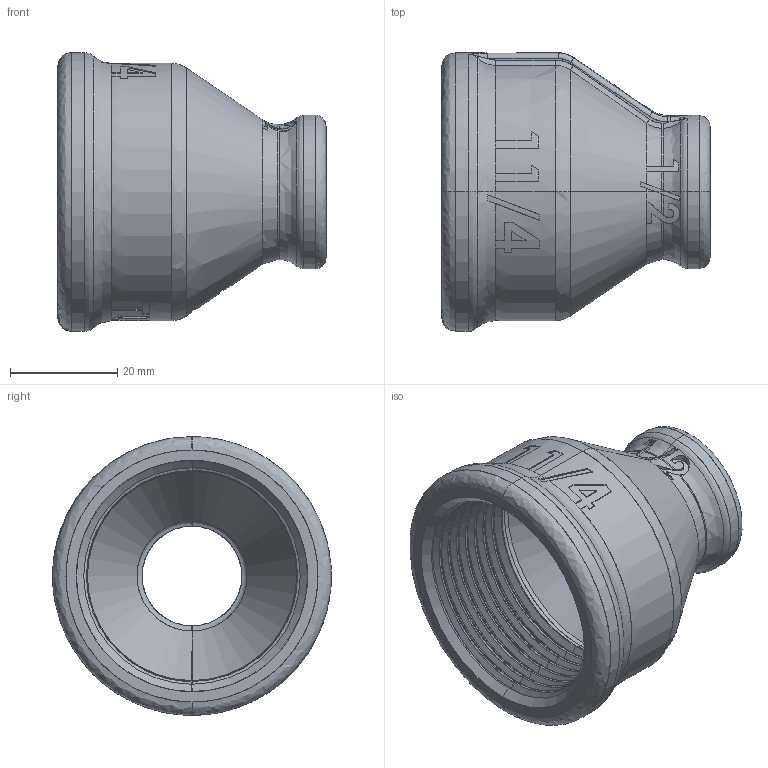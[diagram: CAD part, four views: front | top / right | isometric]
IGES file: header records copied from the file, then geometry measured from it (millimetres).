
Start section: SolidWorks IGES file using analytic representation for surfaces
Global section: file name: C:\Users\Joel Rosa\Desktop\Tubulação\12-32-OK\12-32-035.IGS; native system: SolidWorks 2011; preprocessor: SolidWorks 2011; author: Joel Rosa; date: 121208.224856; units: millimetre
Bounding box: 50 x 52 x 52 mm (x, y, z)
Surface area: 15302.7 mm2 (no closed solid volume)
Topology: 0 solids, 0 shells, 409 faces, 3238 edges, 3235 vertices
Faces by surface type: bspline 286, revolution 123
